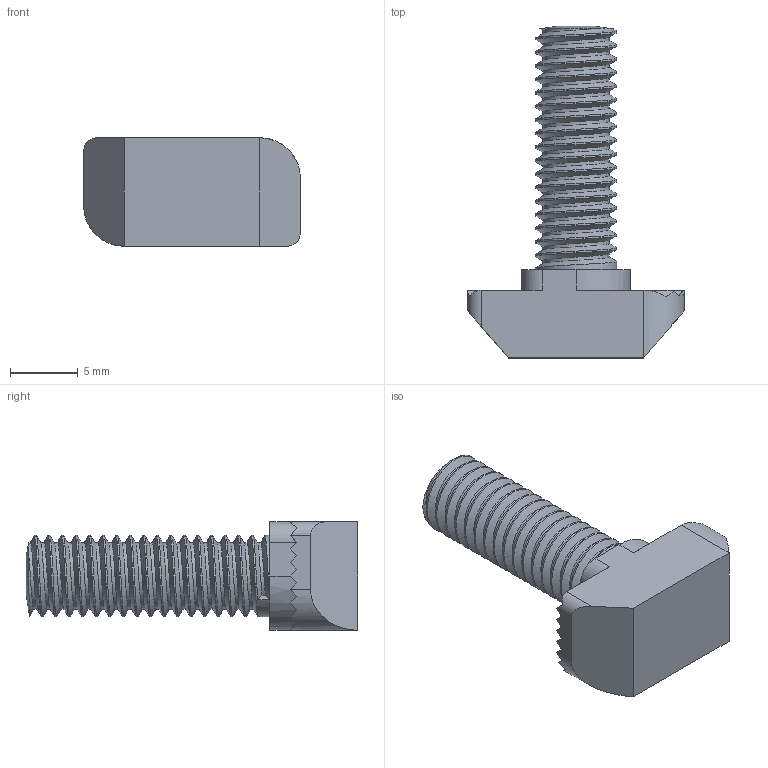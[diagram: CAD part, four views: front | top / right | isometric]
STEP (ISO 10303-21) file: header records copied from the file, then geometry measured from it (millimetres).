
FILE_DESCRIPTION (( 'STEP AP214' ), '1' );
FILE_NAME ('8-2-M6x20.STEP', '2019-01-08T06:47:40', ( '' ), ( '' ), 'SwSTEP 2.0', 'SolidWorks 2018', '' );
FILE_SCHEMA (( 'AUTOMOTIVE_DESIGN' ));
Length unit declared in the file: millimetre
Products named in the file (1): 8-2-M6x20
Bounding box: 16 x 24.5 x 8 mm (x, y, z)
Volume: 1027.3 mm3; surface area: 983.1 mm2
Topology: 1 solids, 1 shells, 93 faces, 260 edges, 170 vertices
Faces by surface type: cylinder 44, plane 44, bspline 3, cone 2
Entity records: 5624 total; most frequent: CARTESIAN_POINT 3572, ORIENTED_EDGE 520, DIRECTION 326, EDGE_CURVE 260, VERTEX_POINT 170, LINE 126, VECTOR 126, AXIS2_PLACEMENT_3D 100
